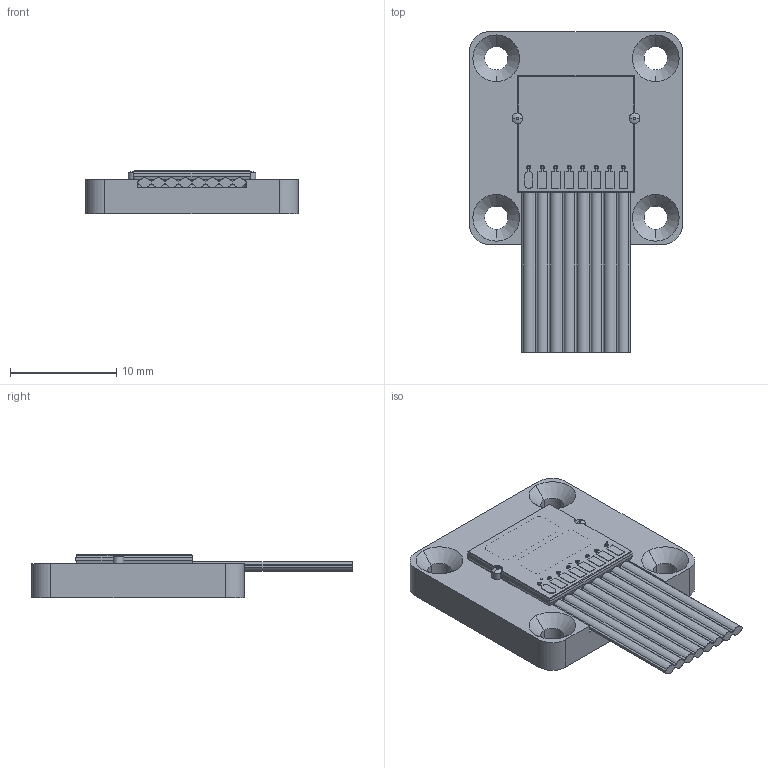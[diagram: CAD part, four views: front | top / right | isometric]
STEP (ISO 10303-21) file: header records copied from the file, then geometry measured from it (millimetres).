
FILE_DESCRIPTION (( 'STEP AP214' ), '1' );
FILE_NAME ('Posic_3402.STEP', '2018-07-18T15:20:05', ( '' ), ( '' ), 'SwSTEP 2.0', 'SolidWorks 2017', '' );
FILE_SCHEMA (( 'AUTOMOTIVE_DESIGN' ));
Length unit declared in the file: millimetre
Products named in the file (9): Posic_34XX_Encoder_thick; Posic_34XX_HolderB; Posic_34XX_Cable; Posic_3402; Posic_34XX_Encoder_thin; Posic_34XX_HolderA; Posic_34XX_Encoder; Posic_34XX_Encoder_fill; Posic_34XX_HolderA_pins
Assembly tree (10 placements, depth 3):
  Posic_3402
    Posic_34XX_Encoder
      Posic_34XX_Encoder_thin
      Posic_34XX_Encoder_thick
      Posic_34XX_Encoder_fill  x2
    Posic_34XX_Cable
    Posic_34XX_HolderB
    Posic_34XX_HolderA
    Posic_34XX_HolderA_pins  x2
Bounding box: 20 x 30.15 x 4.13 mm (x, y, z)
Volume: 1316.7 mm3; surface area: 2349.7 mm2
Topology: 9 solids, 9 shells, 500 faces, 1370 edges, 916 vertices
Faces by surface type: cylinder 228, plane 216, bspline 40, cone 8, sphere 8
Entity records: 19580 total; most frequent: CARTESIAN_POINT 4642, DIRECTION 2528, ORIENTED_EDGE 2488, EDGE_CURVE 1244, AXIS2_PLACEMENT_3D 916, VERTEX_POINT 828, LINE 696, VECTOR 696
